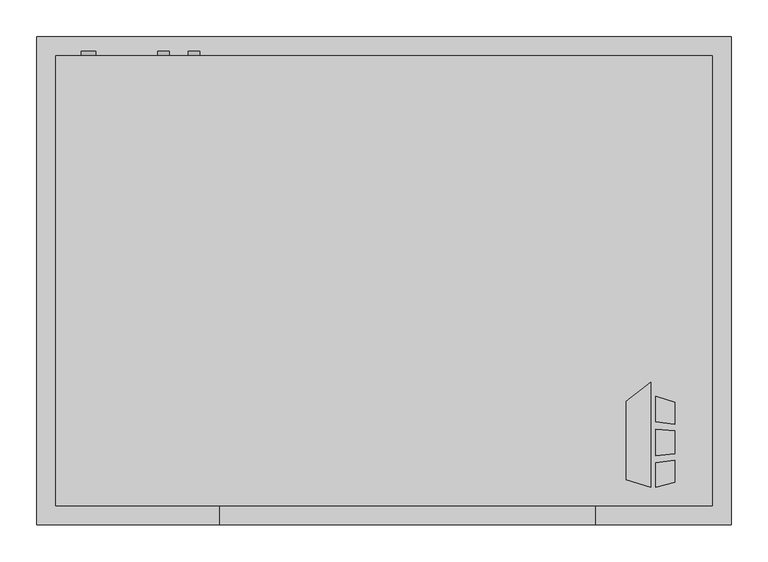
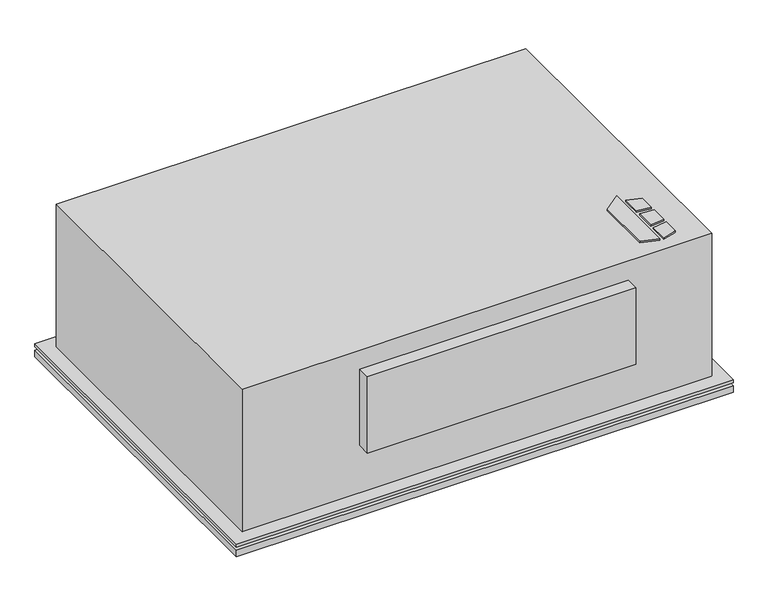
"""IFC4 building model written with IfcOpenShell, lengths in millimetres: proxy geometry, Horizontal_Telescoping_Fan_Coil_Unit_-_CBY_-_IEC_-_2-Pipe_Cool-EHeat_LH_2022 : Size 03 - 277v/60Hz/1Ph - 4 Row 3.0kW."""

from ifc_helpers import new_model, si_unit, point, frame, frame_2d, origin, origin_with_axes, place, context, project, spatial, polyline, circle_curve, trimmed, segment, composite_curve, outline, extrude, source, transform, mapped, element, save


def mechanical_equipment_c4cb6196(model_context):
    return source(origin(), model_context, "Body", "SweptSolid", [
        extrude(outline(polyline([(480.7019761, -401.0078476), (513.2602728, -375.5705184), (513.2602728, -517.525), (480.7019761, -507.3054201), (480.7019761, -401.0078476)])), origin_with_axes(), (0.0, 0.0, 1.0), 3.175),
        extrude(outline(polyline([(520.0186058, -428.879852), (520.0186058, -394.3999379), (546.1, -402.5865115), (546.1, -432.0822446), (520.0186058, -428.879852)])), origin_with_axes(), (0.0, 0.0, 1.0), 3.175),
        extrude(outline(polyline([(546.1, -510.5365115), (520.0186058, -517.525), (520.0186058, -484.3036996), (546.1, -480.7618564), (546.1, -510.5365115)])), origin_with_axes(), (0.0, 0.0, 1.0), 3.175),
        extrude(outline(polyline([(546.1, -441.1638277), (546.1, -472.413983), (520.0186058, -475.155248), (520.0186058, -439.2975378), (546.1, -441.1638277)])), origin_with_axes(), (0.0, 0.0, 1.0), 3.175),
        extrude(outline(composite_curve([segment(trimmed(circle_curve(frame_2d((-55.9967777, -104.775)), 7.9375), [point((-55.9967777, -96.8375))], [point((-55.9967777, -112.7125))], False, "CARTESIAN"), True, "CONTINUOUS"), segment(trimmed(circle_curve(frame_2d((-55.9967777, -104.775)), 7.9375), [point((-55.9967777, -112.7125))], [point((-55.9967777, -96.8375))], False, "CARTESIAN"), True, "CONTINUOUS")], self_intersect=False)), frame((0.0, 66.675, 0.0), z_axis=(0.0, 1.0, 0.0), x_axis=(0.0, 0.0, 1.0)), (0.0, 0.0, 1.0), 6.35),
        extrude(outline(composite_curve([segment(trimmed(circle_curve(frame_2d((-122.5981268, -146.05)), 7.9375), [point((-122.5981268, -138.1125))], [point((-122.5981268, -153.9875))], False, "CARTESIAN"), True, "CONTINUOUS"), segment(trimmed(circle_curve(frame_2d((-122.5981268, -146.05)), 7.9375), [point((-122.5981268, -153.9875))], [point((-122.5981268, -138.1125))], False, "CARTESIAN"), True, "CONTINUOUS")], self_intersect=False)), frame((0.0, 66.675, 0.0), z_axis=(0.0, 1.0, 0.0), x_axis=(0.0, 0.0, 1.0)), (0.0, 0.0, 1.0), 6.35),
        extrude(outline(composite_curve([segment(trimmed(circle_curve(frame_2d((-247.6037358, -247.65)), 9.525), [point((-247.6037358, -238.125))], [point((-247.6037358, -257.175))], False, "CARTESIAN"), True, "CONTINUOUS"), segment(trimmed(circle_curve(frame_2d((-247.6037358, -247.65)), 9.525), [point((-247.6037358, -257.175))], [point((-247.6037358, -238.125))], False, "CARTESIAN"), True, "CONTINUOUS")], self_intersect=False)), frame((0.0, 66.675, 0.0), z_axis=(0.0, 1.0, 0.0), x_axis=(0.0, 0.0, 1.0)), (0.0, 0.0, 1.0), 6.35),
        extrude(outline(polyline([(622.3, 92.075), (622.3, -568.325), (-317.5, -568.325), (-317.5, 92.075), (622.3, 92.075)])), frame((0.0, 0.0, -311.15), z_axis=(0.0, 0.0, 1.0), x_axis=(1.0, 0.0, 0.0)), (0.0, 0.0, 1.0), 12.7),
        extrude(outline(polyline([(622.3, 92.075), (622.3, -568.325), (-317.5, -568.325), (-317.5, 92.075), (622.3, 92.075)])), frame((0.0, 0.0, -292.1), z_axis=(0.0, 0.0, 1.0), x_axis=(1.0, 0.0, 0.0)), (0.0, 0.0, 1.0), 6.35),
        extrude(outline(polyline([(596.9, 66.675), (596.9, -542.925), (-292.1, -542.925), (-292.1, 66.675), (596.9, 66.675)])), frame((0.0, 0.0, -298.45), z_axis=(0.0, 0.0, 1.0), x_axis=(1.0, 0.0, 0.0)), (0.0, 0.0, 1.0), 6.35),
        extrude(outline(polyline([(438.15, -568.325), (-69.85, -568.325), (-69.85, -542.925), (438.15, -542.925), (438.15, -568.325)])), frame((0.0, 0.0, -190.5), z_axis=(0.0, 0.0, 1.0), x_axis=(1.0, 0.0, 0.0)), (0.0, 0.0, 1.0), 152.4),
        extrude(outline(polyline([(-292.1, 66.675), (596.9, 66.675), (596.9, -542.925), (-292.1, -542.925), (-292.1, 66.675)])), frame((0.0, 0.0, -285.75), z_axis=(0.0, 0.0, 1.0), x_axis=(1.0, 0.0, 0.0)), (0.0, 0.0, 1.0), 285.75),
        extrude(outline(polyline([(508.0, -9.525), (508.0, -263.525), (-203.2, -263.525), (-203.2, -9.525), (508.0, -9.525)])), frame((0.0, 0.0, -317.5), z_axis=(0.0, 0.0, 1.0), x_axis=(1.0, 0.0, 0.0)), (0.0, 0.0, 1.0), 6.35),
    ])


if __name__ == "__main__":
    model = new_model("IFC4")
    model_context = context("Model", 3, world=origin())
    ifc_project = project(units=[si_unit("LENGTHUNIT", "METRE", prefix="MILLI")], contexts=[model_context])
    site = spatial("IfcSite", under=ifc_project)
    building = spatial("IfcBuilding", under=site)
    placement = place(None, origin())
    mechanical_equipment_shape = mechanical_equipment_c4cb6196(model_context)
    element("IfcBuildingElementProxy", 1, Name="Horizontal_Telescoping_Fan_Coil_Unit_-_CBY_-_IEC_-_2-Pipe_Cool-EHeat_LH_2022 : Size 03 - 277v/60Hz/1Ph - 4 Row 3.0kW", ObjectType="Horizontal_Telescoping_Fan_Coil_Unit_-_CBY_-_IEC_-_2-Pipe_Cool-EHeat_LH_2022 : Size 03 - 277v/60Hz/1Ph - 4 Row 3.0kW", at=placement, inside=building, context=model_context, shape_type="MappedRepresentation", body=[
        mapped(mechanical_equipment_shape, transform((0.0, 0.0, 0.0), x_axis=(1.0, 0.0, 0.0), y_axis=(0.0, 1.0, 0.0), z_axis=(0.0, 0.0, 1.0))),
    ])
    save(model, "model.ifc")
